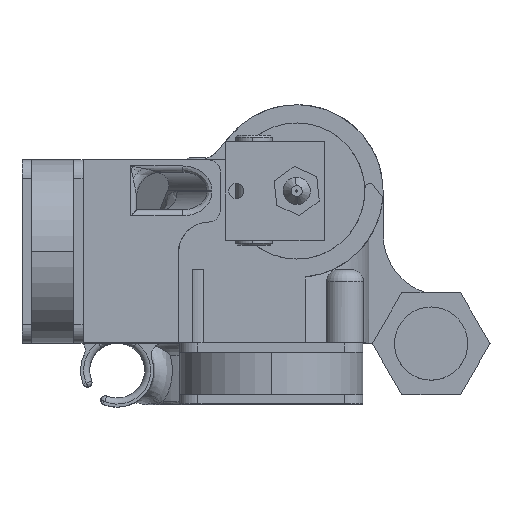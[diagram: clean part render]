
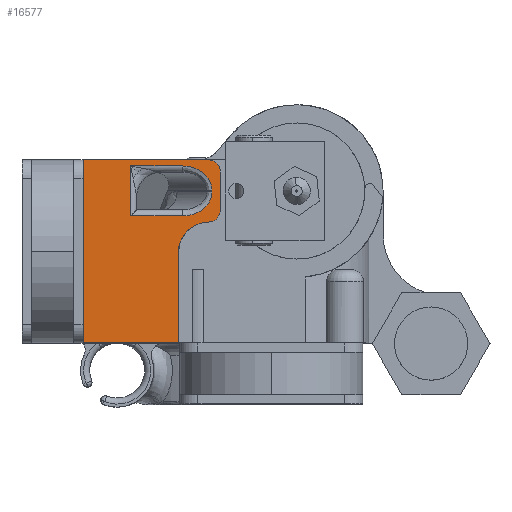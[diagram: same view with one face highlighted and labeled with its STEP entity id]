
A CAD part, front view. The second image highlights one B-rep face of the part: STEP entity #16577.
In plain terms, the highlighted planar face has unit normal (0, -1, 0.001).
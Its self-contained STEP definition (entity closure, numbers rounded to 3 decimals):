
#131 = DIRECTION ( 'NONE',  ( 0., 0., 1. ) ) ;
#629 = DIRECTION ( 'NONE',  ( 0., 0., 1. ) ) ;
#736 = DIRECTION ( 'NONE',  ( -1., 0., 0. ) ) ;
#954 = DIRECTION ( 'NONE',  ( 0., 0., 1. ) ) ;
#967 = FACE_BOUND ( 'NONE', #22377, .T. ) ;
#1054 = EDGE_CURVE ( 'NONE', #15438, #19664, #26630, .T. ) ;
#1871 = ORIENTED_EDGE ( 'NONE', *, *, #19444, .T. ) ;
#2046 = CARTESIAN_POINT ( 'NONE',  ( -12.139, -33.6, 20.794 ) ) ;
#2060 = CARTESIAN_POINT ( 'NONE',  ( -18.356, -33.6, 27.994 ) ) ;
#2774 = EDGE_LOOP ( 'NONE', ( #17318, #14219, #4425, #21599, #20487, #9759, #30092, #5400 ) ) ;
#2993 = CARTESIAN_POINT ( 'NONE',  ( 0., -33.6, 27.994 ) ) ;
#4240 = LINE ( 'NONE', #26543, #22638 ) ;
#4335 = CARTESIAN_POINT ( 'NONE',  ( -13.513, -33.6, 23.994 ) ) ;
#4375 = EDGE_CURVE ( 'NONE', #19664, #10492, #14019, .T. ) ;
#4425 = ORIENTED_EDGE ( 'NONE', *, *, #17237, .F. ) ;
#4985 = PLANE ( 'NONE',  #11425 ) ;
#5356 = CARTESIAN_POINT ( 'NONE',  ( -34.641, -33.6, 28.994 ) ) ;
#5400 = ORIENTED_EDGE ( 'NONE', *, *, #30544, .T. ) ;
#5480 = ORIENTED_EDGE ( 'NONE', *, *, #18057, .T. ) ;
#5853 = CARTESIAN_POINT ( 'NONE',  ( -14.139, -33.6, 26.994 ) ) ;
#6001 = CARTESIAN_POINT ( 'NONE',  ( -12.139, -33.6, 26.994 ) ) ;
#6068 = CARTESIAN_POINT ( 'NONE',  ( -19.038, -33.6, -1.006 ) ) ;
#7335 = CARTESIAN_POINT ( 'NONE',  ( 0., -33.6, 0. ) ) ;
#7410 = DIRECTION ( 'NONE',  ( 0., 0., 1. ) ) ;
#8533 = DIRECTION ( 'NONE',  ( 0., -1., 0. ) ) ;
#9635 = CARTESIAN_POINT ( 'NONE',  ( -13.513, -33.6, 23.794 ) ) ;
#9759 = ORIENTED_EDGE ( 'NONE', *, *, #16989, .T. ) ;
#10047 = DIRECTION ( 'NONE',  ( -1., 0., 0. ) ) ;
#10492 = VERTEX_POINT ( 'NONE', #2046 ) ;
#10662 = CARTESIAN_POINT ( 'NONE',  ( -14.11, -33.6, 18.794 ) ) ;
#11410 = LINE ( 'NONE', #6001, #28126 ) ;
#11425 = AXIS2_PLACEMENT_3D ( 'NONE', #7335, #31722, #15730 ) ;
#11627 = CARTESIAN_POINT ( 'NONE',  ( -26.834, -33.6, 0. ) ) ;
#11659 = EDGE_CURVE ( 'NONE', #26302, #21414, #14293, .T. ) ;
#11819 = VECTOR ( 'NONE', #23151, 1000. ) ;
#12394 = CARTESIAN_POINT ( 'NONE',  ( -34.641, -33.6, -1.006 ) ) ;
#12399 = CARTESIAN_POINT ( 'NONE',  ( -34.641, -33.6, 0. ) ) ;
#12444 = CARTESIAN_POINT ( 'NONE',  ( -13.513, -33.6, 0. ) ) ;
#12661 = CARTESIAN_POINT ( 'NONE',  ( -14.139, -33.6, 20.794 ) ) ;
#12897 = EDGE_CURVE ( 'NONE', #19210, #25839, #16883, .T. ) ;
#13044 = DIRECTION ( 'NONE',  ( -1., 0., 0. ) ) ;
#13453 = VERTEX_POINT ( 'NONE', #22725 ) ;
#13812 = VECTOR ( 'NONE', #22940, 1000. ) ;
#14019 = CIRCLE ( 'NONE', #15181, 2. ) ;
#14219 = ORIENTED_EDGE ( 'NONE', *, *, #33668, .F. ) ;
#14293 =( BOUNDED_CURVE ( )  B_SPLINE_CURVE ( 3, ( #26063, #23505, #34503, #18484 ),
 .UNSPECIFIED., .F., .F. ) 
 B_SPLINE_CURVE_WITH_KNOTS ( ( 4, 4 ),
 ( 1.571, 3.142 ),
 .UNSPECIFIED. ) 
 CURVE ( )  GEOMETRIC_REPRESENTATION_ITEM ( )  RATIONAL_B_SPLINE_CURVE ( ( 1., 0.805, 0.805, 1. ) ) 
 REPRESENTATION_ITEM ( '' )  );
#14541 = EDGE_CURVE ( 'NONE', #32581, #28635, #34359, .T. ) ;
#14569 = CARTESIAN_POINT ( 'NONE',  ( -13.513, -33.6, 21.451 ) ) ;
#14628 = VERTEX_POINT ( 'NONE', #17872 ) ;
#15181 = AXIS2_PLACEMENT_3D ( 'NONE', #12661, #23387, #7410 ) ;
#15230 = CARTESIAN_POINT ( 'NONE',  ( -19.038, -33.6, 0. ) ) ;
#15438 = VERTEX_POINT ( 'NONE', #32107 ) ;
#15730 = DIRECTION ( 'NONE',  ( 0., 0., 1. ) ) ;
#15830 = VECTOR ( 'NONE', #629, 1000. ) ;
#15935 = ORIENTED_EDGE ( 'NONE', *, *, #29260, .T. ) ;
#16577 = ADVANCED_FACE ( 'NONE', ( #967, #19805 ), #4985, .F. ) ;
#16883 = LINE ( 'NONE', #12399, #20246 ) ;
#16989 = EDGE_CURVE ( 'NONE', #10492, #32581, #11410, .T. ) ;
#17237 = EDGE_CURVE ( 'NONE', #15438, #25998, #29346, .T. ) ;
#17249 = CARTESIAN_POINT ( 'NONE',  ( -18.356, -33.6, 19.794 ) ) ;
#17318 = ORIENTED_EDGE ( 'NONE', *, *, #12897, .T. ) ;
#17681 = CARTESIAN_POINT ( 'NONE',  ( -12.139, -33.6, 26.994 ) ) ;
#17872 = CARTESIAN_POINT ( 'NONE',  ( -26.834, -33.6, 27.994 ) ) ;
#17884 = CARTESIAN_POINT ( 'NONE',  ( 0., -33.6, -1.006 ) ) ;
#18057 = EDGE_CURVE ( 'NONE', #14628, #26302, #33513, .T. ) ;
#18098 = ORIENTED_EDGE ( 'NONE', *, *, #30173, .T. ) ;
#18484 = CARTESIAN_POINT ( 'NONE',  ( -13.513, -33.6, 23.994 ) ) ;
#18949 = CARTESIAN_POINT ( 'NONE',  ( -14.038, -33.6, 13.795 ) ) ;
#19210 = VERTEX_POINT ( 'NONE', #5356 ) ;
#19379 = CARTESIAN_POINT ( 'NONE',  ( -14.139, -33.6, 28.994 ) ) ;
#19444 = EDGE_CURVE ( 'NONE', #21414, #27781, #20906, .T. ) ;
#19664 = VERTEX_POINT ( 'NONE', #10662 ) ;
#19805 = FACE_OUTER_BOUND ( 'NONE', #2774, .T. ) ;
#20246 = VECTOR ( 'NONE', #25926, 1000. ) ;
#20487 = ORIENTED_EDGE ( 'NONE', *, *, #4375, .T. ) ;
#20851 = VECTOR ( 'NONE', #736, 1000. ) ;
#20906 = LINE ( 'NONE', #12444, #13812 ) ;
#21414 = VERTEX_POINT ( 'NONE', #4335 ) ;
#21434 =( BOUNDED_CURVE ( )  B_SPLINE_CURVE ( 3, ( #30550, #14569, #33243, #17249 ),
 .UNSPECIFIED., .F., .F. ) 
 B_SPLINE_CURVE_WITH_KNOTS ( ( 4, 4 ),
 ( 3.142, 4.712 ),
 .UNSPECIFIED. ) 
 CURVE ( )  GEOMETRIC_REPRESENTATION_ITEM ( )  RATIONAL_B_SPLINE_CURVE ( ( 1., 0.805, 0.805, 1. ) ) 
 REPRESENTATION_ITEM ( '' )  );
#21599 = ORIENTED_EDGE ( 'NONE', *, *, #1054, .T. ) ;
#22377 = EDGE_LOOP ( 'NONE', ( #15935, #26704, #18098, #5480, #33880, #1871 ) ) ;
#22638 = VECTOR ( 'NONE', #13044, 1000. ) ;
#22725 = CARTESIAN_POINT ( 'NONE',  ( -26.834, -33.6, 19.794 ) ) ;
#22940 = DIRECTION ( 'NONE',  ( 0., 0., -1. ) ) ;
#23151 = DIRECTION ( 'NONE',  ( 0., 0., -1. ) ) ;
#23387 = DIRECTION ( 'NONE',  ( 0., -1., 0. ) ) ;
#23505 = CARTESIAN_POINT ( 'NONE',  ( -15.519, -33.6, 27.994 ) ) ;
#24525 = DIRECTION ( 'NONE',  ( 0., 0., 1. ) ) ;
#24694 = DIRECTION ( 'NONE',  ( 1., 0., 0. ) ) ;
#24808 = CARTESIAN_POINT ( 'NONE',  ( 0., -33.6, 28.994 ) ) ;
#25560 = VECTOR ( 'NONE', #24694, 1000. ) ;
#25839 = VERTEX_POINT ( 'NONE', #12394 ) ;
#25915 = AXIS2_PLACEMENT_3D ( 'NONE', #18949, #26985, #131 ) ;
#25926 = DIRECTION ( 'NONE',  ( 0., 0., -1. ) ) ;
#25998 = VERTEX_POINT ( 'NONE', #6068 ) ;
#26063 = CARTESIAN_POINT ( 'NONE',  ( -18.356, -33.6, 27.994 ) ) ;
#26302 = VERTEX_POINT ( 'NONE', #2060 ) ;
#26543 = CARTESIAN_POINT ( 'NONE',  ( 0., -33.6, 19.794 ) ) ;
#26630 = CIRCLE ( 'NONE', #25915, 5. ) ;
#26704 = ORIENTED_EDGE ( 'NONE', *, *, #27915, .T. ) ;
#26985 = DIRECTION ( 'NONE',  ( 0., 1., 0. ) ) ;
#27682 = AXIS2_PLACEMENT_3D ( 'NONE', #5853, #8533, #24525 ) ;
#27781 = VERTEX_POINT ( 'NONE', #9635 ) ;
#27915 = EDGE_CURVE ( 'NONE', #31720, #13453, #4240, .T. ) ;
#27933 = LINE ( 'NONE', #24808, #20851 ) ;
#28126 = VECTOR ( 'NONE', #954, 1000. ) ;
#28635 = VERTEX_POINT ( 'NONE', #19379 ) ;
#29049 = VECTOR ( 'NONE', #10047, 1000. ) ;
#29260 = EDGE_CURVE ( 'NONE', #27781, #31720, #21434, .T. ) ;
#29346 = LINE ( 'NONE', #15230, #11819 ) ;
#29877 = LINE ( 'NONE', #17884, #29049 ) ;
#30092 = ORIENTED_EDGE ( 'NONE', *, *, #14541, .T. ) ;
#30173 = EDGE_CURVE ( 'NONE', #13453, #14628, #31711, .T. ) ;
#30544 = EDGE_CURVE ( 'NONE', #28635, #19210, #27933, .T. ) ;
#30550 = CARTESIAN_POINT ( 'NONE',  ( -13.513, -33.6, 23.794 ) ) ;
#31264 = CARTESIAN_POINT ( 'NONE',  ( -18.356, -33.6, 19.794 ) ) ;
#31711 = LINE ( 'NONE', #11627, #15830 ) ;
#31720 = VERTEX_POINT ( 'NONE', #31264 ) ;
#31722 = DIRECTION ( 'NONE',  ( 0., 1., 0. ) ) ;
#32107 = CARTESIAN_POINT ( 'NONE',  ( -19.038, -33.6, 13.795 ) ) ;
#32581 = VERTEX_POINT ( 'NONE', #17681 ) ;
#33243 = CARTESIAN_POINT ( 'NONE',  ( -15.519, -33.6, 19.794 ) ) ;
#33513 = LINE ( 'NONE', #2993, #25560 ) ;
#33668 = EDGE_CURVE ( 'NONE', #25998, #25839, #29877, .T. ) ;
#33880 = ORIENTED_EDGE ( 'NONE', *, *, #11659, .T. ) ;
#34359 = CIRCLE ( 'NONE', #27682, 2. ) ;
#34503 = CARTESIAN_POINT ( 'NONE',  ( -13.513, -33.6, 26.337 ) ) ;
